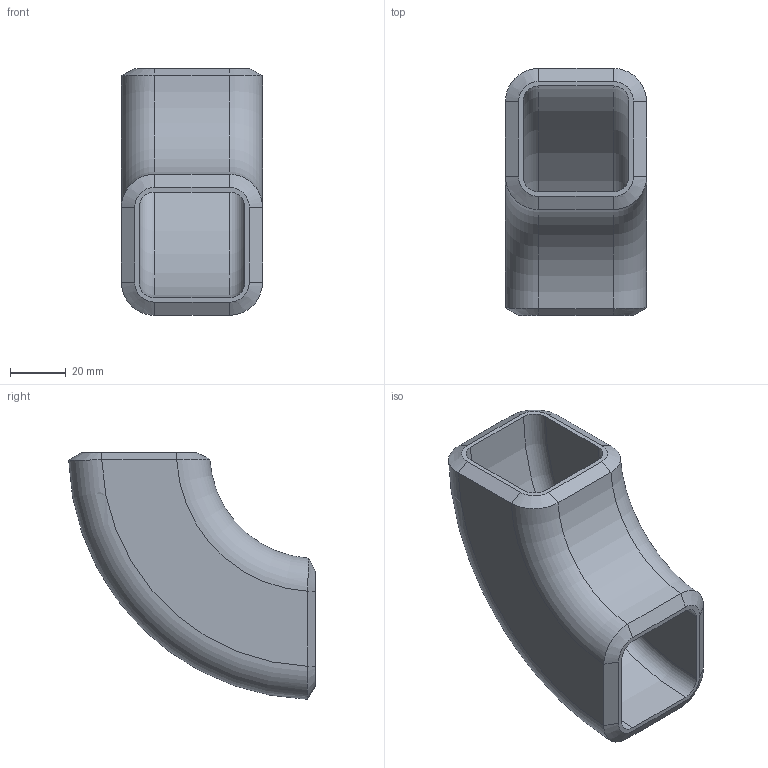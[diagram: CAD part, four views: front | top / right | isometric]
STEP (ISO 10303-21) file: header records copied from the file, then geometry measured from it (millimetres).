
FILE_DESCRIPTION((''),'2;1');
FILE_NAME('C:\Documents and Settings\bamfomg\Desktop\Owens corners\STP FILES\2x2x0.25 - Steel.stp','2011-03-21T13:14:53',('bamfomg'),(''),'Autodesk Inventor 2011','Autodesk Inventor 2011','');
FILE_SCHEMA(('AUTOMOTIVE_DESIGN { 1 0 10303 214 1 1 1 1 }'));
Length unit declared in the file: inch
Products named in the file (1): Square Tube Corners
Bounding box: 50.8 x 88.86 x 88.85 mm (x, y, z)
Volume: 100969.2 mm3; surface area: 33818 mm2
Topology: 1 solids, 1 shells, 34 faces, 80 edges, 48 vertices
Faces by surface type: bspline 16, torus 8, plane 6, cylinder 4
Entity records: 1382 total; most frequent: CARTESIAN_POINT 697, ORIENTED_EDGE 160, DIRECTION 94, EDGE_CURVE 80, VERTEX_POINT 48, B_SPLINE_CURVE_WITH_KNOTS 46, AXIS2_PLACEMENT_3D 43, EDGE_LOOP 36
